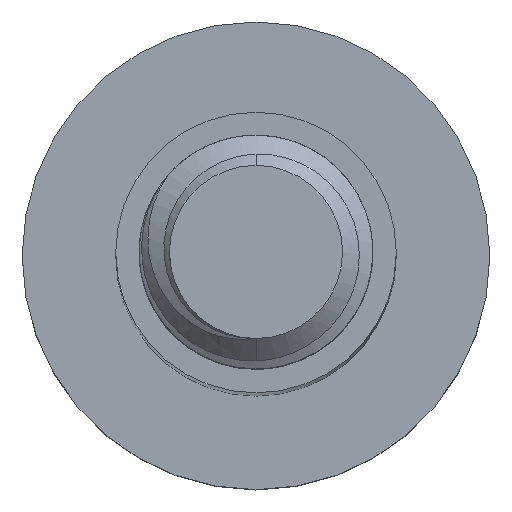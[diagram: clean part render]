
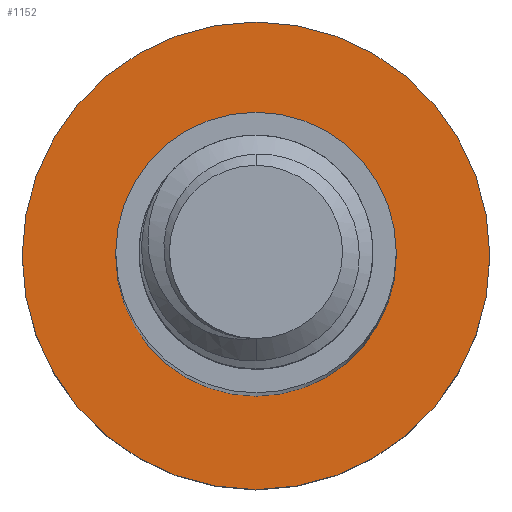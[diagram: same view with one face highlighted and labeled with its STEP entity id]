
A CAD part, top view. The second image highlights one B-rep face of the part: STEP entity #1152.
In plain terms, the highlighted planar face has unit normal (0, 0, 1).
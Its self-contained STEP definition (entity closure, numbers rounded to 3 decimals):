
#35 = EDGE_LOOP ( 'NONE', ( #2609, #3012 ) ) ;
#37 = CIRCLE ( 'NONE', #2031, 10. ) ;
#48 = PLANE ( 'NONE',  #2612 ) ;
#155 = CARTESIAN_POINT ( 'NONE',  ( 0., 0., -80. ) ) ;
#408 = DIRECTION ( 'NONE',  ( -1., 0., 0. ) ) ;
#515 = DIRECTION ( 'NONE',  ( -1., 0., 0. ) ) ;
#549 = CARTESIAN_POINT ( 'NONE',  ( -10., 0., -80. ) ) ;
#581 = FACE_OUTER_BOUND ( 'NONE', #994, .T. ) ;
#840 = CARTESIAN_POINT ( 'NONE',  ( -6., 0., -80. ) ) ;
#890 = AXIS2_PLACEMENT_3D ( 'NONE', #155, #1487, #2322 ) ;
#994 = EDGE_LOOP ( 'NONE', ( #1506, #3438 ) ) ;
#1120 = FACE_BOUND ( 'NONE', #35, .T. ) ;
#1152 = ADVANCED_FACE ( 'NONE', ( #1120, #581 ), #48, .F. ) ;
#1413 = AXIS2_PLACEMENT_3D ( 'NONE', #2584, #2023, #1480 ) ;
#1480 = DIRECTION ( 'NONE',  ( -1., 0., 0. ) ) ;
#1487 = DIRECTION ( 'NONE',  ( 0., 0., -1. ) ) ;
#1506 = ORIENTED_EDGE ( 'NONE', *, *, #2438, .F. ) ;
#1640 = AXIS2_PLACEMENT_3D ( 'NONE', #2282, #3432, #408 ) ;
#1669 = CARTESIAN_POINT ( 'NONE',  ( 0., 0., -80. ) ) ;
#1878 = EDGE_CURVE ( 'NONE', #3066, #2462, #2964, .T. ) ;
#1892 = EDGE_CURVE ( 'NONE', #3233, #2096, #3205, .T. ) ;
#1950 = CARTESIAN_POINT ( 'NONE',  ( 10., 0., -80. ) ) ;
#2023 = DIRECTION ( 'NONE',  ( 0., 0., -1. ) ) ;
#2031 = AXIS2_PLACEMENT_3D ( 'NONE', #3258, #2979, #515 ) ;
#2096 = VERTEX_POINT ( 'NONE', #1950 ) ;
#2282 = CARTESIAN_POINT ( 'NONE',  ( 0., 0., -80. ) ) ;
#2322 = DIRECTION ( 'NONE',  ( -1., 0., 0. ) ) ;
#2361 = CARTESIAN_POINT ( 'NONE',  ( 6., 0., -80. ) ) ;
#2381 = CIRCLE ( 'NONE', #890, 6. ) ;
#2438 = EDGE_CURVE ( 'NONE', #2096, #3233, #37, .T. ) ;
#2462 = VERTEX_POINT ( 'NONE', #840 ) ;
#2518 = DIRECTION ( 'NONE',  ( -1., 0., 0. ) ) ;
#2584 = CARTESIAN_POINT ( 'NONE',  ( 0., 0., -80. ) ) ;
#2609 = ORIENTED_EDGE ( 'NONE', *, *, #3097, .T. ) ;
#2612 = AXIS2_PLACEMENT_3D ( 'NONE', #1669, #2770, #2518 ) ;
#2770 = DIRECTION ( 'NONE',  ( 0., 0., -1. ) ) ;
#2964 = CIRCLE ( 'NONE', #1413, 6. ) ;
#2979 = DIRECTION ( 'NONE',  ( 0., 0., -1. ) ) ;
#3012 = ORIENTED_EDGE ( 'NONE', *, *, #1878, .T. ) ;
#3066 = VERTEX_POINT ( 'NONE', #2361 ) ;
#3097 = EDGE_CURVE ( 'NONE', #2462, #3066, #2381, .T. ) ;
#3205 = CIRCLE ( 'NONE', #1640, 10. ) ;
#3233 = VERTEX_POINT ( 'NONE', #549 ) ;
#3258 = CARTESIAN_POINT ( 'NONE',  ( 0., 0., -80. ) ) ;
#3432 = DIRECTION ( 'NONE',  ( 0., 0., -1. ) ) ;
#3438 = ORIENTED_EDGE ( 'NONE', *, *, #1892, .F. ) ;
